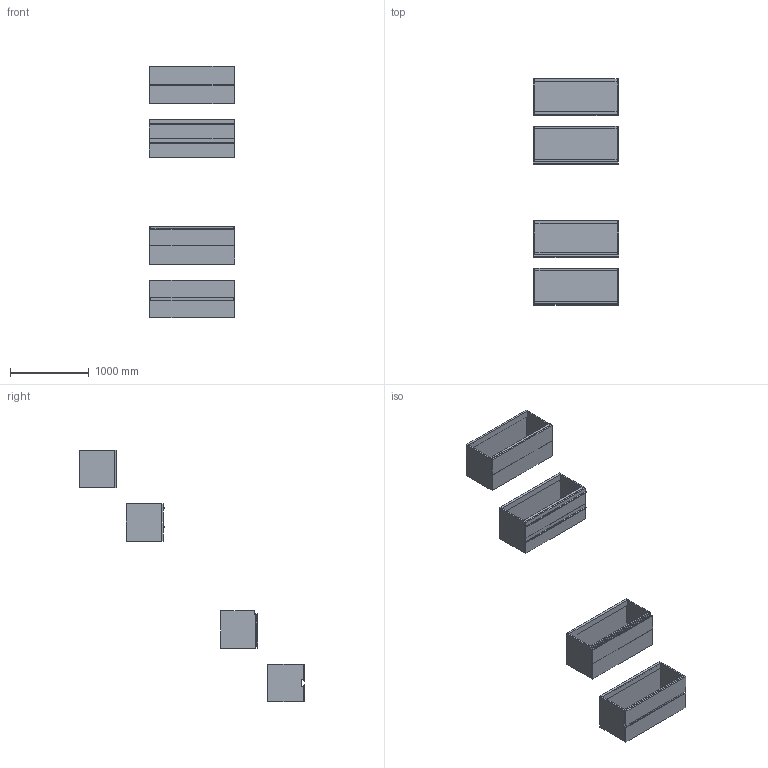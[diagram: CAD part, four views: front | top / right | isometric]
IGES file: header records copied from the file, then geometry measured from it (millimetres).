
Start section: Data from Parasolid IGES Translator 19.0.9, Copyright(c) 2006 Siemens PL M Software. All Rights Reserved.
Global section: file name: noorth-SI-H 48 D 47 W 108_8469.igs; native system: By Siemens PLM Incorporated; preprocessor: XPlus GENERIC/IGES 19.0.9; author: Noname; organization: Noname; date: 20200601.104848; units: metre
Bounding box: 1084.84 x 2869.1 x 3200.01 mm (x, y, z)
Volume: 112667510.6 mm3; surface area: 17638024.2 mm2
Topology: 37 solids, 37 shells, 342 faces, 748 edges, 460 vertices
Faces by surface type: plane 254, extrusion 36, bspline 32, cylinder 20
